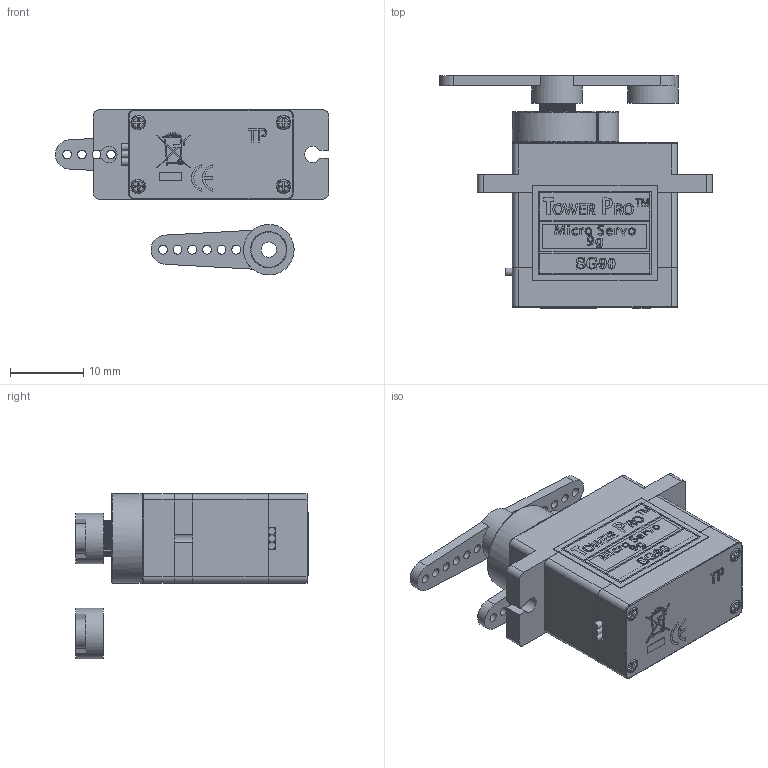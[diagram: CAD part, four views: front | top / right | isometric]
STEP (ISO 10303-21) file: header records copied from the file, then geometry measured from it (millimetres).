
FILE_DESCRIPTION(/* description */ (''),/* implementation_level */ '2;1');
FILE_NAME(/* name */ 'SG90 With long holder_v2.tmp.step',/* time_stamp */ '2026-11-01T13:11:04+02:00',/* author */ (''),/* organization */ (''),/* preprocessor_version */ 'ST-DEVELOPER v20.2',/* originating_system */ 'Autodesk Translation Framework v15.15.0.0',/* authorisation */ '');
FILE_SCHEMA (('AUTOMOTIVE_DESIGN { 1 0 10303 214 3 1 1 }'));
Products named in the file (3): SG90 - Micro Servo 9g - Tower Pro.1; SG90 - Micro Servo 9g - Tower Pro.2; SG90 - Micro Servo 9g - Tower Pro.3
Assembly tree (2 placements, depth 2):
  SG90 - Micro Servo 9g - Tower Pro.1
    SG90 - Micro Servo 9g - Tower Pro.2
    SG90 - Micro Servo 9g - Tower Pro.3
Bounding box: 37.25 x 31.78 x 22.64 mm (x, y, z)
Volume: 7425.9 mm3; surface area: 5856.3 mm2
Topology: 15 solids, 15 shells, 1016 faces, 3348 edges, 2476 vertices
Faces by surface type: plane 690, cylinder 275, torus 25, bspline 23, sphere 2, cone 1
Full cylindrical faces by diameter (mm): 0.2 x1, 0.5 x1, 1 x3, 1.2 x18, 1.6 x2, 1.8 x4, 2 x4, 2.1 x2, 4.6 x2, 5 x1, 6.9 x2
Entity records: 52510 total; most frequent: CARTESIAN_POINT 22854, ORIENTED_EDGE 6692, DIRECTION 5373, EDGE_CURVE 3346, VERTEX_POINT 2476, LINE 2135, VECTOR 2135, AXIS2_PLACEMENT_3D 1619
